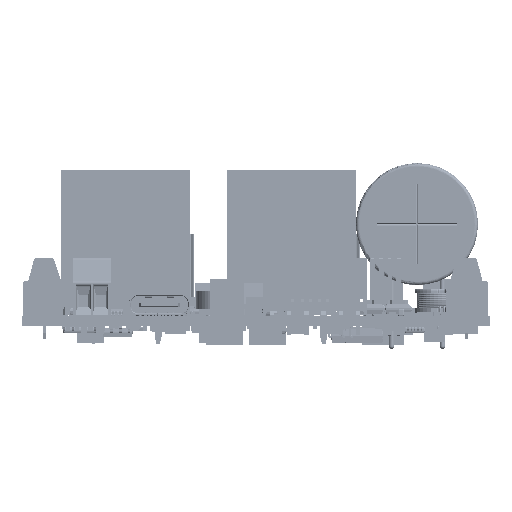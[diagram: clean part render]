
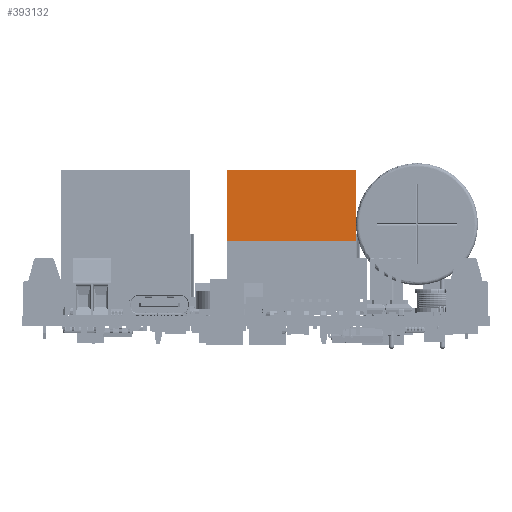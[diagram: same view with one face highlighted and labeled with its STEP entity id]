
A CAD part, left-side view. The second image highlights one B-rep face of the part: STEP entity #393132.
In plain terms, the highlighted planar face has unit normal (-1, 0, 0).
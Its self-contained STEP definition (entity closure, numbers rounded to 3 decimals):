
#30286=FACE_OUTER_BOUND('',#51848,.T.);
#51848=EDGE_LOOP('',(#285249,#285250,#285251,#285252));
#81713=LINE('',#579570,#127040);
#81724=LINE('',#579592,#127051);
#81728=LINE('',#579601,#127055);
#82426=LINE('',#582654,#127753);
#127040=VECTOR('',#461206,1.);
#127051=VECTOR('',#461219,1.);
#127055=VECTOR('',#461225,1.);
#127753=VECTOR('',#462699,1.);
#170593=VERTEX_POINT('',#579541);
#170606=VERTEX_POINT('',#579568);
#170608=VERTEX_POINT('',#579573);
#170620=VERTEX_POINT('',#579600);
#213578=EDGE_CURVE('',#170593,#170606,#81713,.T.);
#213589=EDGE_CURVE('',#170608,#170593,#81724,.T.);
#213593=EDGE_CURVE('',#170620,#170608,#81728,.T.);
#214434=EDGE_CURVE('',#170606,#170620,#82426,.T.);
#285249=ORIENTED_EDGE('',*,*,#213589,.T.);
#285250=ORIENTED_EDGE('',*,*,#213578,.T.);
#285251=ORIENTED_EDGE('',*,*,#214434,.T.);
#285252=ORIENTED_EDGE('',*,*,#213593,.T.);
#377518=PLANE('',#415746);
#393132=ADVANCED_FACE('',(#30286),#377518,.F.);
#415746=AXIS2_PLACEMENT_3D('',#582683,#462720,#462721);
#461206=DIRECTION('',(0.,0.,1.));
#461219=DIRECTION('',(0.,-1.,0.));
#461225=DIRECTION('',(0.,0.,-1.));
#462699=DIRECTION('',(0.,1.,0.));
#462720=DIRECTION('center_axis',(1.,0.,
0.));
#462721=DIRECTION('ref_axis',(0.,0.,
1.));
#579541=CARTESIAN_POINT('',(129.375,19.745,11.02));
#579568=CARTESIAN_POINT('',(129.375,19.745,21.52));
#579570=CARTESIAN_POINT('',(129.375,19.745,11.02));
#579573=CARTESIAN_POINT('',(129.375,38.785,11.02));
#579592=CARTESIAN_POINT('',(129.375,38.785,11.02));
#579600=CARTESIAN_POINT('',(129.375,38.785,21.52));
#579601=CARTESIAN_POINT('',(129.375,38.785,21.52));
#582654=CARTESIAN_POINT('',(129.375,19.745,21.52));
#582683=CARTESIAN_POINT('Origin',(129.375,29.265,16.27));
